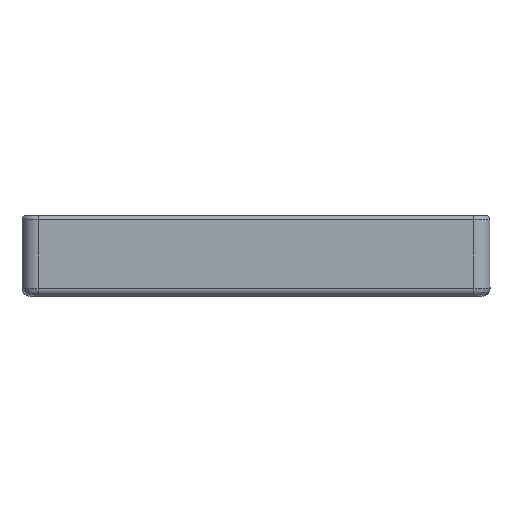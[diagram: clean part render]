
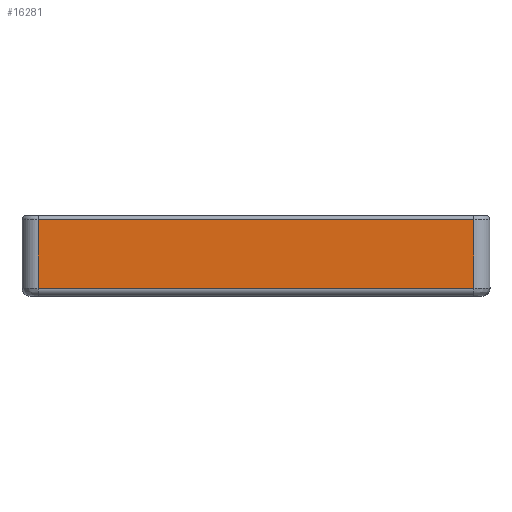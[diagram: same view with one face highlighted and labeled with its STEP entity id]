
A CAD part, left-side view. The second image highlights one B-rep face of the part: STEP entity #16281.
In plain terms, the highlighted planar face has unit normal (-1, 0, 0).
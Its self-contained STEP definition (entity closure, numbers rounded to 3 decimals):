
#1205 = CARTESIAN_POINT ( 'NONE',  ( -44.9, -27., 5. ) ) ;
#1275 = CARTESIAN_POINT ( 'NONE',  ( -44.9, -27., -4. ) ) ;
#1482 = CARTESIAN_POINT ( 'NONE',  ( -44.9, -27., 4.5 ) ) ;
#1729 = PLANE ( 'NONE',  #5229 ) ;
#1913 = VERTEX_POINT ( 'NONE', #1275 ) ;
#2050 = EDGE_CURVE ( 'NONE', #9818, #1913, #3840, .T. ) ;
#2414 = CARTESIAN_POINT ( 'NONE',  ( -44.9, 27.281, 4.5 ) ) ;
#3569 = DIRECTION ( 'NONE',  ( 0., 0., -1. ) ) ;
#3840 = LINE ( 'NONE', #16103, #16102 ) ;
#3981 = DIRECTION ( 'NONE',  ( 0., -1., 0. ) ) ;
#4683 = CARTESIAN_POINT ( 'NONE',  ( -44.9, 27., 4.5 ) ) ;
#5082 = CARTESIAN_POINT ( 'NONE',  ( -44.9, 27., -5. ) ) ;
#5229 = AXIS2_PLACEMENT_3D ( 'NONE', #6282, #7802, #18328 ) ;
#5963 = LINE ( 'NONE', #1205, #17742 ) ;
#6282 = CARTESIAN_POINT ( 'NONE',  ( -44.9, 29., -5. ) ) ;
#6950 = DIRECTION ( 'NONE',  ( 0., -1., 0. ) ) ;
#7501 = FACE_OUTER_BOUND ( 'NONE', #10883, .T. ) ;
#7802 = DIRECTION ( 'NONE',  ( -1., 0., 0. ) ) ;
#8059 = ORIENTED_EDGE ( 'NONE', *, *, #17239, .F. ) ;
#9522 = EDGE_CURVE ( 'NONE', #17525, #9818, #10794, .T. ) ;
#9818 = VERTEX_POINT ( 'NONE', #10290 ) ;
#10045 = LINE ( 'NONE', #2414, #12152 ) ;
#10290 = CARTESIAN_POINT ( 'NONE',  ( -44.9, 27., -4. ) ) ;
#10794 = LINE ( 'NONE', #5082, #18345 ) ;
#10883 = EDGE_LOOP ( 'NONE', ( #12063, #18389, #8059, #18576 ) ) ;
#11729 = DIRECTION ( 'NONE',  ( 0., 0., 1. ) ) ;
#12063 = ORIENTED_EDGE ( 'NONE', *, *, #2050, .T. ) ;
#12152 = VECTOR ( 'NONE', #3981, 1000. ) ;
#13772 = EDGE_CURVE ( 'NONE', #1913, #15144, #5963, .T. ) ;
#15144 = VERTEX_POINT ( 'NONE', #1482 ) ;
#16102 = VECTOR ( 'NONE', #6950, 1000. ) ;
#16103 = CARTESIAN_POINT ( 'NONE',  ( -44.9, 29., -4. ) ) ;
#16281 = ADVANCED_FACE ( 'NONE', ( #7501 ), #1729, .T. ) ;
#17239 = EDGE_CURVE ( 'NONE', #17525, #15144, #10045, .T. ) ;
#17525 = VERTEX_POINT ( 'NONE', #4683 ) ;
#17742 = VECTOR ( 'NONE', #11729, 1000. ) ;
#18328 = DIRECTION ( 'NONE',  ( 0., 0., 1. ) ) ;
#18345 = VECTOR ( 'NONE', #3569, 1000. ) ;
#18389 = ORIENTED_EDGE ( 'NONE', *, *, #13772, .T. ) ;
#18576 = ORIENTED_EDGE ( 'NONE', *, *, #9522, .T. ) ;
